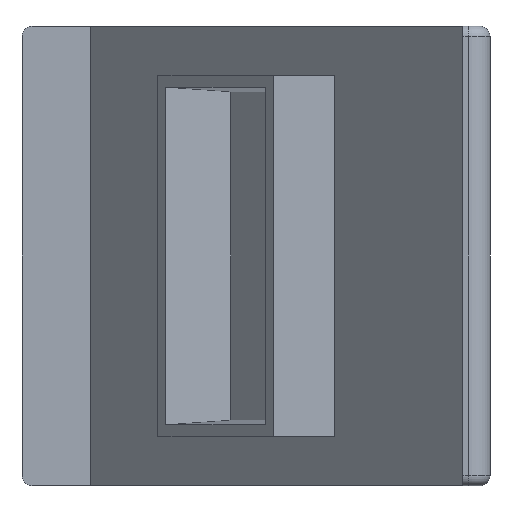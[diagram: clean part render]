
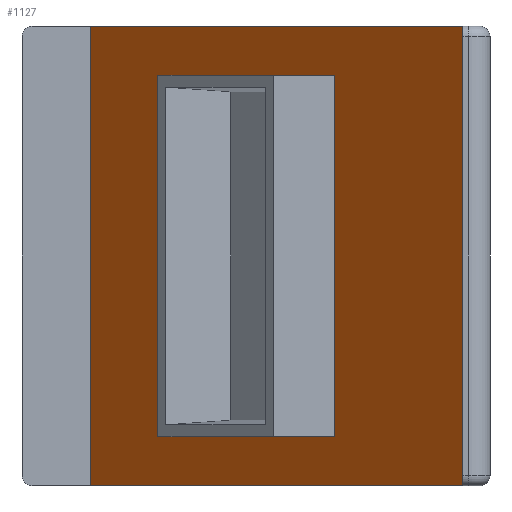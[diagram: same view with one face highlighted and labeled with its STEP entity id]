
A CAD part, front view. The second image highlights one B-rep face of the part: STEP entity #1127.
In plain terms, the highlighted planar face has unit normal (-0.707, -0.707, 0).
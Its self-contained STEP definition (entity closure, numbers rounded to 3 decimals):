
#14 = ORIENTED_EDGE ( 'NONE', *, *, #770, .F. ) ;
#28 = CARTESIAN_POINT ( 'NONE',  ( 18.194, 28.801, 15.15 ) ) ;
#40 = CARTESIAN_POINT ( 'NONE',  ( 40.645, 6.35, 21.2 ) ) ;
#77 = DIRECTION ( 'NONE',  ( -0.707, 0.707, 0. ) ) ;
#87 = DIRECTION ( 'NONE',  ( 0.707, -0.707, 0. ) ) ;
#96 = LINE ( 'NONE', #1019, #441 ) ;
#115 = ORIENTED_EDGE ( 'NONE', *, *, #562, .F. ) ;
#118 = EDGE_CURVE ( 'NONE', #857, #929, #958, .T. ) ;
#148 = CARTESIAN_POINT ( 'NONE',  ( 6.35, 40.645, -21.2 ) ) ;
#152 = CARTESIAN_POINT ( 'NONE',  ( 18.194, 28.801, 16.65 ) ) ;
#191 = EDGE_LOOP ( 'NONE', ( #217, #1087, #509, #1167 ) ) ;
#206 = CARTESIAN_POINT ( 'NONE',  ( 18.194, 28.801, -16.65 ) ) ;
#217 = ORIENTED_EDGE ( 'NONE', *, *, #571, .F. ) ;
#225 = DIRECTION ( 'NONE',  ( 0., 0., -1. ) ) ;
#241 = EDGE_CURVE ( 'NONE', #836, #946, #814, .T. ) ;
#249 = VERTEX_POINT ( 'NONE', #331 ) ;
#270 = CARTESIAN_POINT ( 'NONE',  ( 6.35, 40.645, 21.2 ) ) ;
#277 = LINE ( 'NONE', #40, #1015 ) ;
#283 = FACE_OUTER_BOUND ( 'NONE', #1159, .T. ) ;
#309 = LINE ( 'NONE', #148, #756 ) ;
#331 = CARTESIAN_POINT ( 'NONE',  ( 6.35, 40.645, -21.2 ) ) ;
#341 = VECTOR ( 'NONE', #545, 1000. ) ;
#371 = CARTESIAN_POINT ( 'NONE',  ( 18.194, 28.801, -16.65 ) ) ;
#403 = FACE_BOUND ( 'NONE', #191, .T. ) ;
#407 = ORIENTED_EDGE ( 'NONE', *, *, #1171, .T. ) ;
#415 = CARTESIAN_POINT ( 'NONE',  ( 28.801, 18.194, 15.15 ) ) ;
#441 = VECTOR ( 'NONE', #1214, 1000. ) ;
#509 = ORIENTED_EDGE ( 'NONE', *, *, #1143, .F. ) ;
#521 = LINE ( 'NONE', #371, #341 ) ;
#545 = DIRECTION ( 'NONE',  ( 0.707, -0.707, 0. ) ) ;
#562 = EDGE_CURVE ( 'NONE', #1071, #751, #647, .T. ) ;
#571 = EDGE_CURVE ( 'NONE', #929, #836, #521, .T. ) ;
#604 = CARTESIAN_POINT ( 'NONE',  ( 40.645, 6.35, 21.2 ) ) ;
#610 = EDGE_CURVE ( 'NONE', #1071, #249, #96, .T. ) ;
#616 = LINE ( 'NONE', #152, #660 ) ;
#618 = DIRECTION ( 'NONE',  ( 0.707, -0.707, 0. ) ) ;
#623 = DIRECTION ( 'NONE',  ( -0.707, 0.707, 0. ) ) ;
#647 = LINE ( 'NONE', #270, #1120 ) ;
#660 = VECTOR ( 'NONE', #77, 1000. ) ;
#675 = ORIENTED_EDGE ( 'NONE', *, *, #610, .T. ) ;
#696 = CARTESIAN_POINT ( 'NONE',  ( 40.645, 6.35, -21.2 ) ) ;
#731 = DIRECTION ( 'NONE',  ( 0.707, 0.707, 0. ) ) ;
#751 = VERTEX_POINT ( 'NONE', #604 ) ;
#754 = VECTOR ( 'NONE', #784, 1000. ) ;
#756 = VECTOR ( 'NONE', #618, 1000. ) ;
#758 = VERTEX_POINT ( 'NONE', #696 ) ;
#770 = EDGE_CURVE ( 'NONE', #751, #758, #277, .T. ) ;
#784 = DIRECTION ( 'NONE',  ( 0., 0., 1. ) ) ;
#814 = LINE ( 'NONE', #415, #754 ) ;
#820 = PLANE ( 'NONE',  #1055 ) ;
#836 = VERTEX_POINT ( 'NONE', #876 ) ;
#857 = VERTEX_POINT ( 'NONE', #1070 ) ;
#876 = CARTESIAN_POINT ( 'NONE',  ( 28.801, 18.194, -16.65 ) ) ;
#929 = VERTEX_POINT ( 'NONE', #206 ) ;
#946 = VERTEX_POINT ( 'NONE', #1165 ) ;
#958 = LINE ( 'NONE', #28, #1147 ) ;
#1015 = VECTOR ( 'NONE', #225, 1000. ) ;
#1019 = CARTESIAN_POINT ( 'NONE',  ( 6.35, 40.645, 21.2 ) ) ;
#1055 = AXIS2_PLACEMENT_3D ( 'NONE', #1124, #731, #623 ) ;
#1070 = CARTESIAN_POINT ( 'NONE',  ( 18.194, 28.801, 16.65 ) ) ;
#1071 = VERTEX_POINT ( 'NONE', #1118 ) ;
#1087 = ORIENTED_EDGE ( 'NONE', *, *, #118, .F. ) ;
#1118 = CARTESIAN_POINT ( 'NONE',  ( 6.35, 40.645, 21.2 ) ) ;
#1120 = VECTOR ( 'NONE', #87, 1000. ) ;
#1124 = CARTESIAN_POINT ( 'NONE',  ( 6.35, 40.645, 21.2 ) ) ;
#1127 = ADVANCED_FACE ( 'NONE', ( #283, #403 ), #820, .F. ) ;
#1143 = EDGE_CURVE ( 'NONE', #946, #857, #616, .T. ) ;
#1147 = VECTOR ( 'NONE', #1163, 1000. ) ;
#1159 = EDGE_LOOP ( 'NONE', ( #407, #14, #115, #675 ) ) ;
#1163 = DIRECTION ( 'NONE',  ( 0., 0., -1. ) ) ;
#1165 = CARTESIAN_POINT ( 'NONE',  ( 28.801, 18.194, 16.65 ) ) ;
#1167 = ORIENTED_EDGE ( 'NONE', *, *, #241, .F. ) ;
#1171 = EDGE_CURVE ( 'NONE', #249, #758, #309, .T. ) ;
#1214 = DIRECTION ( 'NONE',  ( 0., 0., -1. ) ) ;
